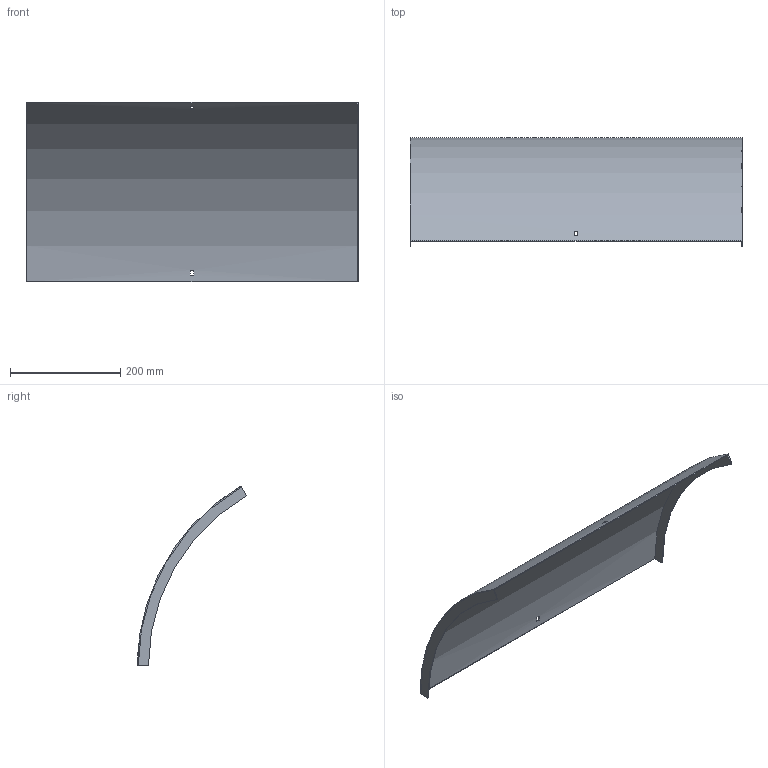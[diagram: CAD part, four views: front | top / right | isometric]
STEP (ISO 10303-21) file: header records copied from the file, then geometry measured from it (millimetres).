
FILE_DESCRIPTION (( 'STEP AP214' ), '1' );
FILE_NAME ('B2_41N3C600.step', '2025-02-21T10:41:17', ( '' ), ( '' ), 'SwSTEP 2.0', 'SolidWorks 2023', '' );
FILE_SCHEMA (( 'AUTOMOTIVE_DESIGN' ));
Length unit declared in the file: millimetre
Products named in the file (1): B2_41N3C600
Bounding box: 603 x 198.25 x 326.06 mm (x, y, z)
Volume: 376988.2 mm3; surface area: 505786.4 mm2
Topology: 1 solids, 1 shells, 18 faces, 48 edges, 32 vertices
Faces by surface type: plane 14, cylinder 4
Entity records: 599 total; most frequent: DIRECTION 102, CARTESIAN_POINT 99, ORIENTED_EDGE 96, EDGE_CURVE 48, AXIS2_PLACEMENT_3D 35, LINE 32, VECTOR 32, VERTEX_POINT 32
